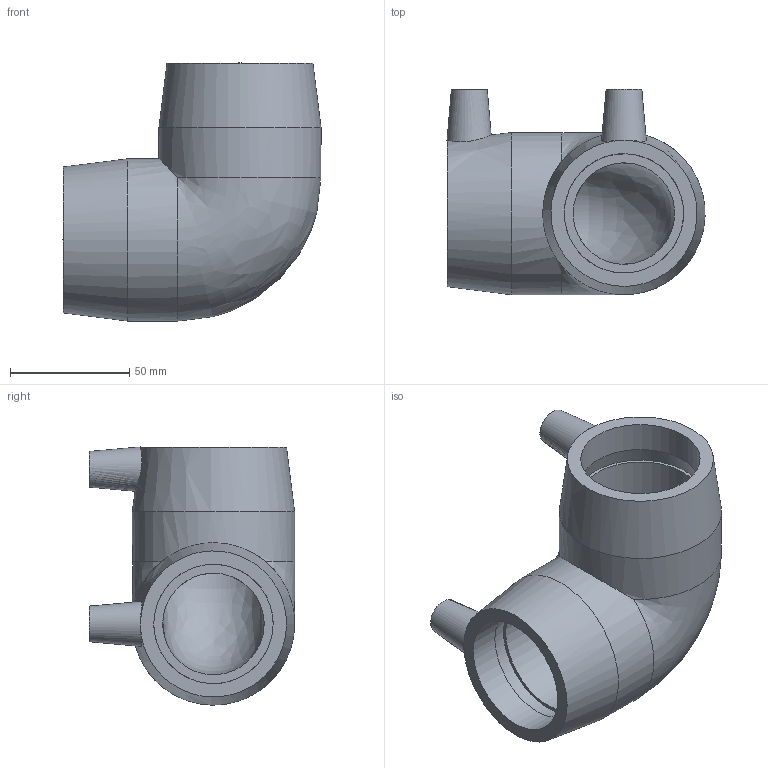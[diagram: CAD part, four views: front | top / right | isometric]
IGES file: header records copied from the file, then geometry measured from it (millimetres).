
Global section: file name: 490504050; native system: Autodesk Inventor 2026; preprocessor: unknown; author: KIM; date: 20260322.131456; units: millimetre
Bounding box: 108.15 x 86 x 108.17 mm (x, y, z)
Volume: 236472.9 mm3; surface area: 55986.6 mm2
Topology: 1 solids, 1 shells, 32 faces, 72 edges, 48 vertices
Faces by surface type: bspline 32
